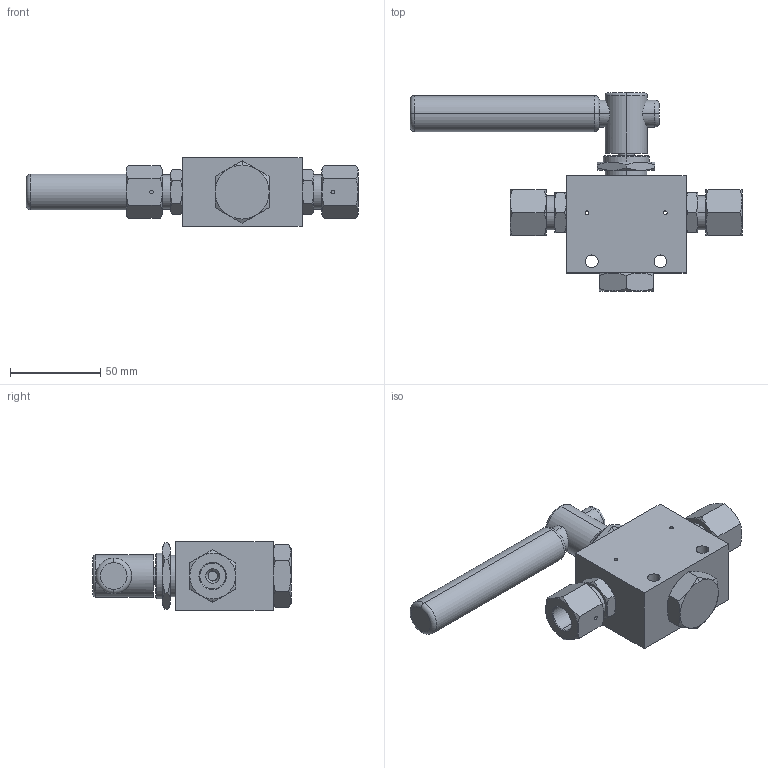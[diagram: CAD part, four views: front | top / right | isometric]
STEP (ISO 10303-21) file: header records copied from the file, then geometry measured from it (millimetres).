
FILE_DESCRIPTION (( 'STEP AP203' ), '1' );
FILE_NAME ('BV2003S06-2-90.STEP', '2022-03-31T10:05:00', ( '' ), ( '' ), 'SwSTEP 2.0', 'SolidWorks 2020', '' );
FILE_SCHEMA (( 'CONFIG_CONTROL_DESIGN' ));
Length unit declared in the file: millimetre
Products named in the file (1): BV2003S06-2-90
Bounding box: 184.33 x 110 x 38 mm (x, y, z)
Volume: 221143.7 mm3; surface area: 39867.3 mm2
Topology: 1 solids, 1 shells, 208 faces, 456 edges, 266 vertices
Faces by surface type: cone 98, plane 60, cylinder 42, torus 8
Entity records: 6445 total; most frequent: CARTESIAN_POINT 1983, ORIENTED_EDGE 904, DIRECTION 902, EDGE_CURVE 452, AXIS2_PLACEMENT_3D 393, VERTEX_POINT 266, EDGE_LOOP 240, FACE_OUTER_BOUND 208
